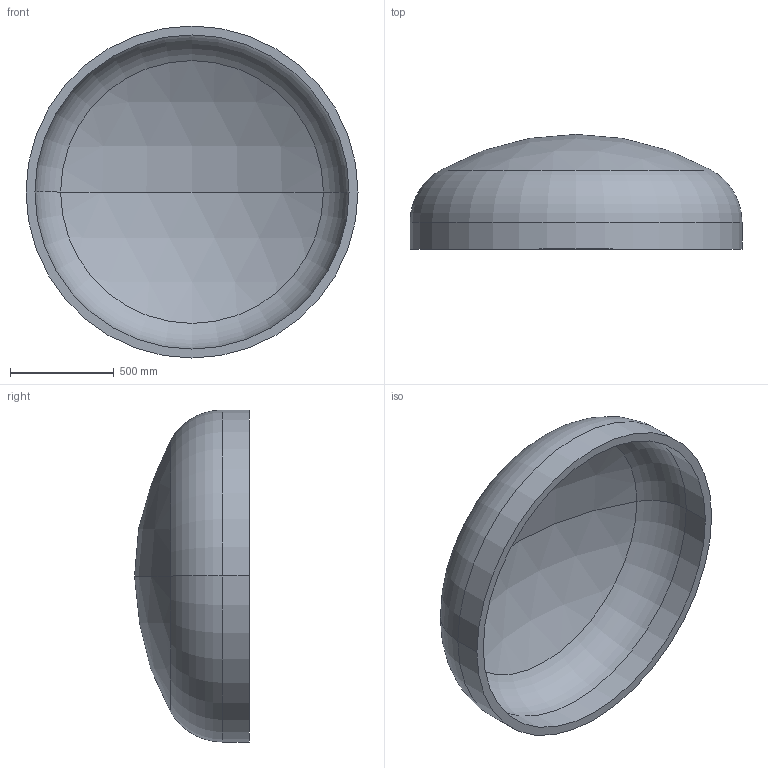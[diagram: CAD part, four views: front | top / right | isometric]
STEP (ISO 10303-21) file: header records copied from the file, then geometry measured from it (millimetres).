
FILE_DESCRIPTION (( 'STEP AP203' ), '1' );
FILE_NAME ('DIN 28013 Korbbogenform_-_Boden DIN 28013 - 1600 x 130 - I - s=43.step', '2016-07-01T11:16:44', ( '' ), ( '' ), 'SwSTEP 2.0', 'SolidWorks 2013', '' );
FILE_SCHEMA (( 'CONFIG_CONTROL_DESIGN' ));
Length unit declared in the file: millimetre
Products named in the file (1): DIN 28013 Korbbogenform_-_Boden DIN 28013 - 1600 x 130 - I - s=43
Bounding box: 1600 x 553.51 x 1600 mm (x, y, z)
Volume: 142811684.5 mm3; surface area: 6856607.3 mm2
Topology: 1 solids, 1 shells, 13 faces, 24 edges, 14 vertices
Faces by surface type: torus 4, cylinder 4, sphere 4, plane 1
Entity records: 407 total; most frequent: DIRECTION 72, CARTESIAN_POINT 52, ORIENTED_EDGE 48, AXIS2_PLACEMENT_3D 34, EDGE_CURVE 24, CIRCLE 20, VERTEX_POINT 14, EDGE_LOOP 14
